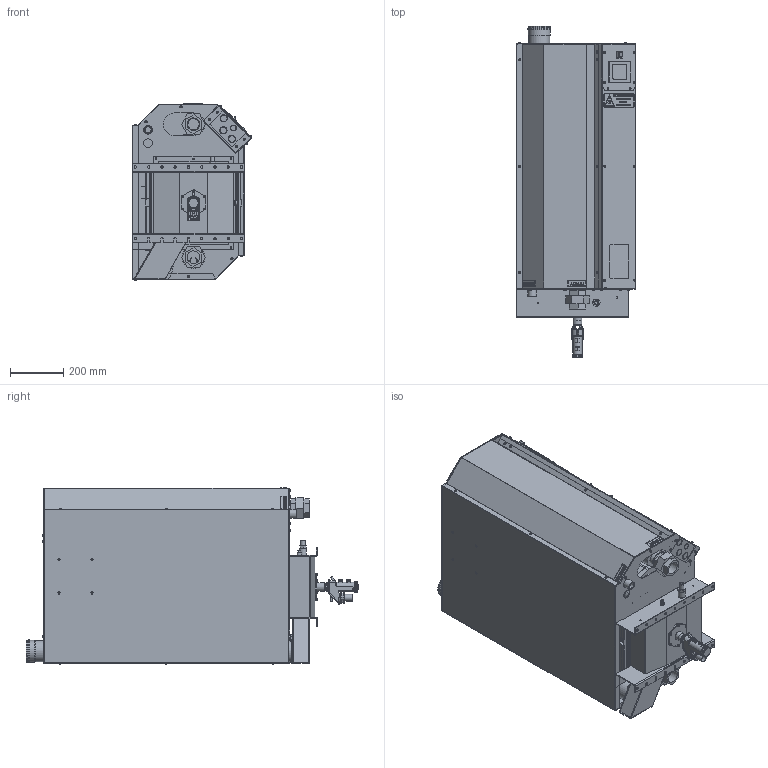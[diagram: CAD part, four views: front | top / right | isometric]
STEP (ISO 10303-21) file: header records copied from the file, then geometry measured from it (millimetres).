
FILE_DESCRIPTION (( 'STEP AP203' ), '1' );
FILE_NAME ('MRL 55.STEP', '2019-03-08T08:17:34', ( '' ), ( '' ), 'SwSTEP 2.0', 'SolidWorks 2019', '' );
FILE_SCHEMA (( 'CONFIG_CONTROL_DESIGN' ));
Products named in the file (1): MRL 55
Bounding box: 446.72 x 1249.92 x 663.92 mm (x, y, z)
Surface area: 7496563 mm2 (no closed solid volume)
Topology: 0 solids, 278 shells, 1129 faces, 6747 edges, 5790 vertices
Faces by surface type: plane 622, cylinder 325, torus 95, sphere 39, bspline 38, cone 10
Full cylindrical faces by diameter (mm): 4 x4, 6 x8, 7 x10, 7.4 x1, 8 x25, 8.5 x8, 9 x16, 10 x1, 12 x1, 13 x1, 14 x1, 15 x1, 16 x1, 17 x2, 18 x1, 20 x1, 21 x1, 22.9 x1, 23 x1, 24 x1, 25 x2, 26.4 x1, 26.9 x1, 32 x2, 33 x1, 34 x2, 48 x2, 48.3 x1, 50 x2, 55 x2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
Entity records: 75805 total; most frequent: CARTESIAN_POINT 26045, DIRECTION 9769, ORIENTED_EDGE 7907, EDGE_CURVE 6564, VERTEX_POINT 5762, LINE 3935, VECTOR 3935, AXIS2_PLACEMENT_3D 2917
